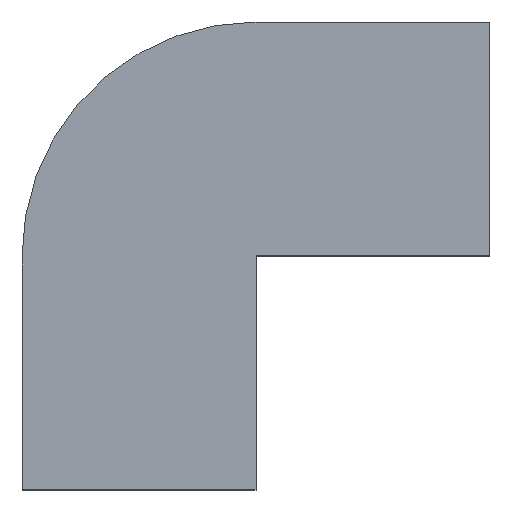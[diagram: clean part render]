
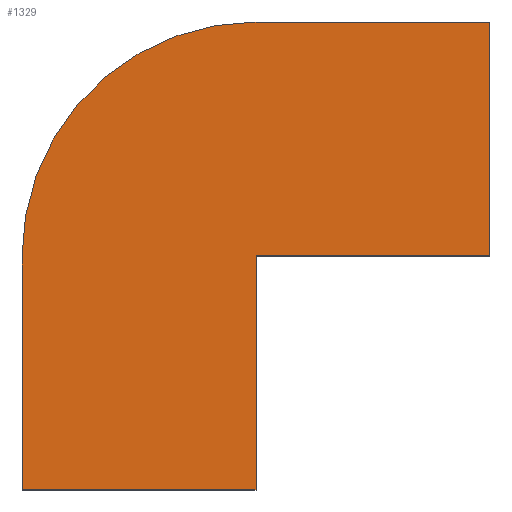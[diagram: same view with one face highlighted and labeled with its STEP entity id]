
A CAD part, top view. The second image highlights one B-rep face of the part: STEP entity #1329.
In plain terms, the highlighted planar face has unit normal (0, 0, 1).
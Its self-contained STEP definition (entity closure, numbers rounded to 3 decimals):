
#24=CIRCLE('',#1407,30.);
#261=ORIENTED_EDGE('',*,*,#527,.T.);
#262=ORIENTED_EDGE('',*,*,#531,.T.);
#263=ORIENTED_EDGE('',*,*,#534,.T.);
#264=ORIENTED_EDGE('',*,*,#537,.T.);
#265=ORIENTED_EDGE('',*,*,#540,.T.);
#266=ORIENTED_EDGE('',*,*,#543,.T.);
#267=ORIENTED_EDGE('',*,*,#545,.T.);
#527=EDGE_CURVE('',#682,#681,#24,.T.);
#531=EDGE_CURVE('',#681,#684,#838,.T.);
#534=EDGE_CURVE('',#684,#686,#841,.T.);
#537=EDGE_CURVE('',#686,#688,#844,.T.);
#540=EDGE_CURVE('',#688,#690,#847,.T.);
#543=EDGE_CURVE('',#690,#692,#850,.T.);
#545=EDGE_CURVE('',#692,#682,#852,.T.);
#681=VERTEX_POINT('',#2035);
#682=VERTEX_POINT('',#2037);
#684=VERTEX_POINT('',#2043);
#686=VERTEX_POINT('',#2049);
#688=VERTEX_POINT('',#2055);
#690=VERTEX_POINT('',#2061);
#692=VERTEX_POINT('',#2067);
#838=LINE('',#2044,#1020);
#841=LINE('',#2050,#1023);
#844=LINE('',#2056,#1026);
#847=LINE('',#2062,#1029);
#850=LINE('',#2068,#1032);
#852=LINE('',#2071,#1034);
#1020=VECTOR('',#1654,1000.);
#1023=VECTOR('',#1659,1000.);
#1026=VECTOR('',#1664,1000.);
#1029=VECTOR('',#1669,1000.);
#1032=VECTOR('',#1674,1000.);
#1034=VECTOR('',#1678,1000.);
#1118=EDGE_LOOP('',(#261,#262,#263,#264,#265,#266,#267));
#1192=FACE_BOUND('',#1118,.T.);
#1261=PLANE('',#1414);
#1329=ADVANCED_FACE('',(#1192),#1261,.T.);
#1407=AXIS2_PLACEMENT_3D('',#2036,#1647,#1648);
#1414=AXIS2_PLACEMENT_3D('',#2072,#1679,#1680);
#1647=DIRECTION('',(0.,0.,1.));
#1648=DIRECTION('',(1.,0.,0.));
#1654=DIRECTION('',(0.,-1.,0.));
#1659=DIRECTION('',(1.,0.,0.));
#1664=DIRECTION('',(0.,1.,0.));
#1669=DIRECTION('',(1.,0.,0.));
#1674=DIRECTION('',(0.,1.,0.));
#1678=DIRECTION('',(-1.,0.,0.));
#1679=DIRECTION('',(0.,0.,1.));
#1680=DIRECTION('',(1.,0.,0.));
#2035=CARTESIAN_POINT('',(-30.,0.,5.));
#2036=CARTESIAN_POINT('',(0.,0.,5.));
#2037=CARTESIAN_POINT('',(0.,30.,5.));
#2043=CARTESIAN_POINT('',(-30.,-30.,5.));
#2044=CARTESIAN_POINT('',(-30.,0.,5.));
#2049=CARTESIAN_POINT('',(0.,-30.,5.));
#2050=CARTESIAN_POINT('',(-30.,-30.,5.));
#2055=CARTESIAN_POINT('',(0.,0.,5.));
#2056=CARTESIAN_POINT('',(0.,-30.,5.));
#2061=CARTESIAN_POINT('',(30.,0.,5.));
#2062=CARTESIAN_POINT('',(0.,0.,5.));
#2067=CARTESIAN_POINT('',(30.,30.,5.));
#2068=CARTESIAN_POINT('',(30.,0.,5.));
#2071=CARTESIAN_POINT('',(30.,30.,5.));
#2072=CARTESIAN_POINT('',(0.,0.,5.));
